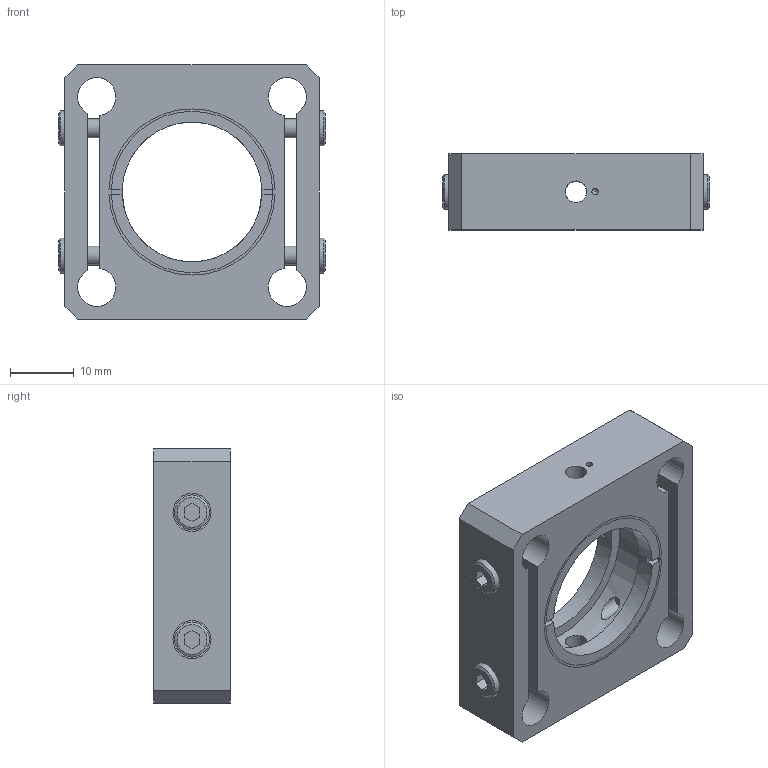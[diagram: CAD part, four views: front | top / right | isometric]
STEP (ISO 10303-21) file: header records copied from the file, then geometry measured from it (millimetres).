
FILE_DESCRIPTION(/* description */ (''),/* implementation_level */ '2;1');
FILE_NAME(/* name */ '\\fs001\share\Public_Div\41_開発部\開発\①開発案件\1_ケージシステム\図面\C30-HSP-25.4UU\C30-HSP-25.4UU_STP\C30-HSP-25.4UU.stp',/* time_stamp */ '2018-08-07T16:42:02+09:00',/* author */ ('ka.nakajima'),/* organization */ (''),/* preprocessor_version */ 'ST-DEVELOPER v16.13',/* originating_system */ 'Autodesk Inventor 2018',/* authorisation */ '');
FILE_SCHEMA (('AUTOMOTIVE_DESIGN { 1 0 10303 214 3 1 1 }'));
Length unit declared in the file: millimetre
Products named in the file (1): C30-HSP-25.4UU
Bounding box: 42 x 12 x 40 mm (x, y, z)
Volume: 11142 mm3; surface area: 7738.2 mm2
Topology: 1 solids, 1 shells, 125 faces, 293 edges, 192 vertices
Faces by surface type: plane 80, cylinder 35, cone 10
Full cylindrical faces by diameter (mm): 1 x2, 2.5 x4, 3 x4, 3.4 x2, 3.5 x4, 5.5 x4, 6 x4, 22 x2, 25.4 x1
Entity records: 3709 total; most frequent: CARTESIAN_POINT 768, DIRECTION 580, ORIENTED_EDGE 492, EDGE_CURVE 246, AXIS2_PLACEMENT_3D 214, EDGE_LOOP 202, VERTEX_POINT 182, LINE 152
